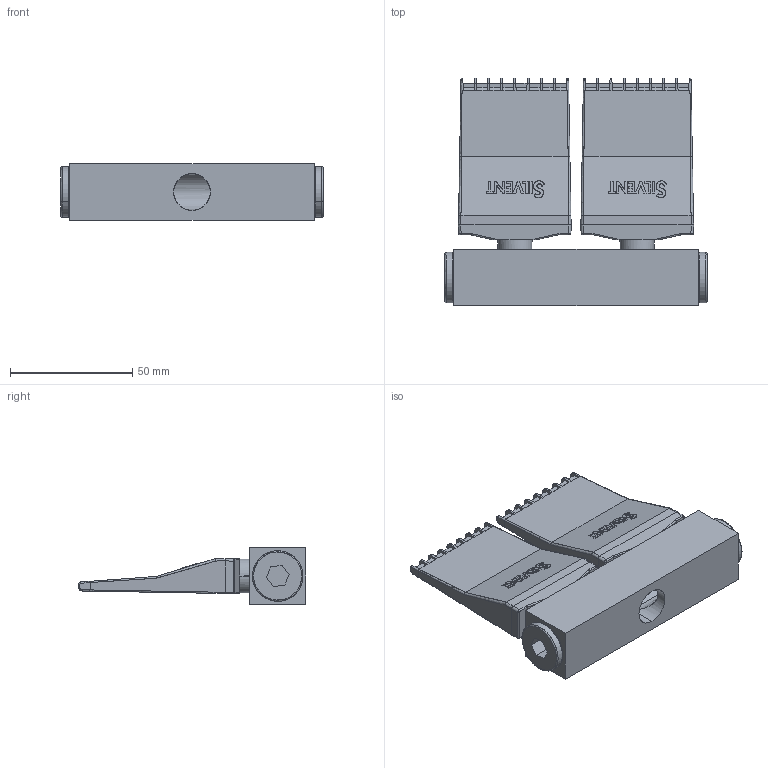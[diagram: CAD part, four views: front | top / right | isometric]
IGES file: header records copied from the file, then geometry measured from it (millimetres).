
Start section: SolidWorks IGES file using analytic representation for surfaces
Global section: file name: C:\Users\p.jaasko\Silvent\ENGINEERING - Documents\General\Drawings\WEB CAD\NEW CAD 2026\SILVENT_392.IGS; native system: SolidWorks 2021; preprocessor: SolidWorks 2021; author: p.jaasko; date: 250829.084057; units: millimetre
Bounding box: 107 x 93 x 23 mm (x, y, z)
Surface area: 34693.9 mm2 (no closed solid volume)
Topology: 0 solids, 0 shells, 660 faces, 5486 edges, 5482 vertices
Faces by surface type: bspline 392, revolution 268
